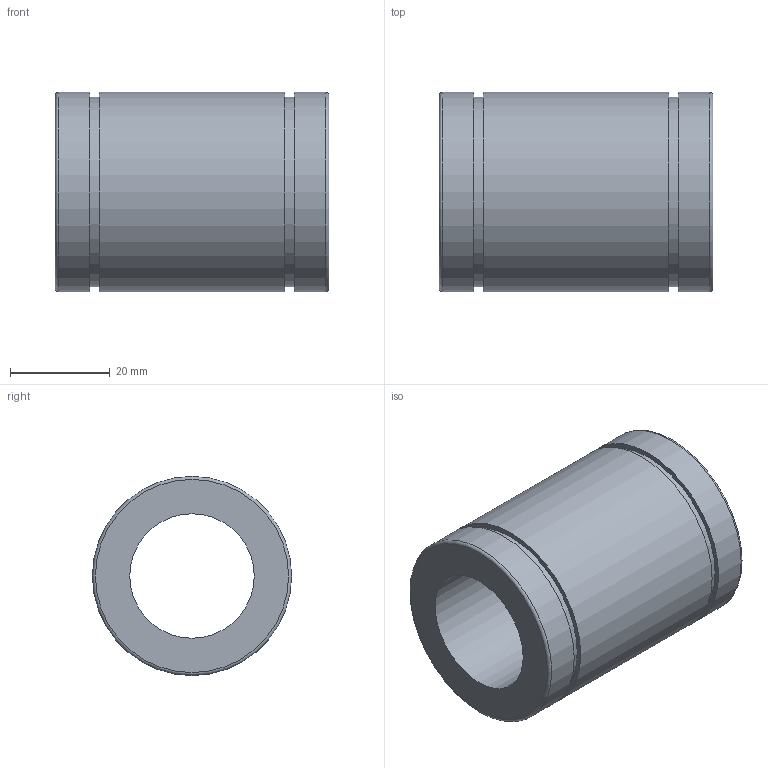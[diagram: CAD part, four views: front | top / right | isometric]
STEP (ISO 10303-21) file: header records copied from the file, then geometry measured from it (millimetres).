
FILE_DESCRIPTION(('STEP AP203'),'1');
FILE_NAME('//192.168.1.1/share/s-4 技術開発/s-4-13_CAD/03_見直し済み/001 修正済み/N/N_TOP/N-25A.step','2020-03-17T00:39:48',(' '),(' '),'Spatial InterOp 3D',' ',' ');
FILE_SCHEMA(('CONFIG_CONTROL_DESIGN'));
Length unit declared in the file: millimetre
Products named in the file (1): 1
Bounding box: 55 x 40 x 40 mm (x, y, z)
Volume: 41644.4 mm3; surface area: 13164.5 mm2
Topology: 1 solids, 1 shells, 14 faces, 25 edges, 17 vertices
Faces by surface type: cylinder 6, plane 6, torus 2
Full cylindrical faces by diameter (mm): 25 x1, 38 x2, 40 x3
Entity records: 332 total; most frequent: DIRECTION 58, CARTESIAN_POINT 43, AXIS2_PLACEMENT_3D 29, EDGE_LOOP 28, ORIENTED_EDGE 28, FACE_OUTER_BOUND 22, ADVANCED_FACE 14, EDGE_CURVE 14
